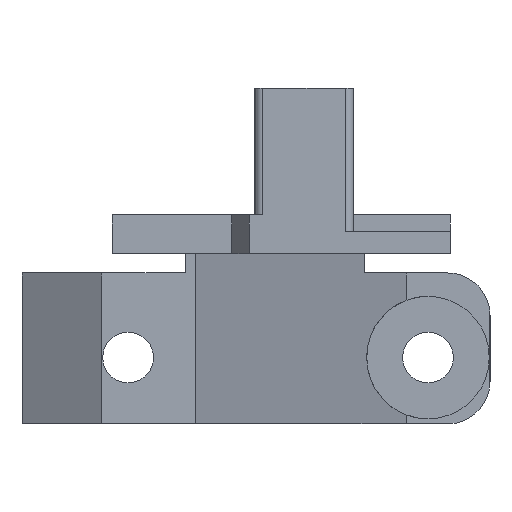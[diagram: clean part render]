
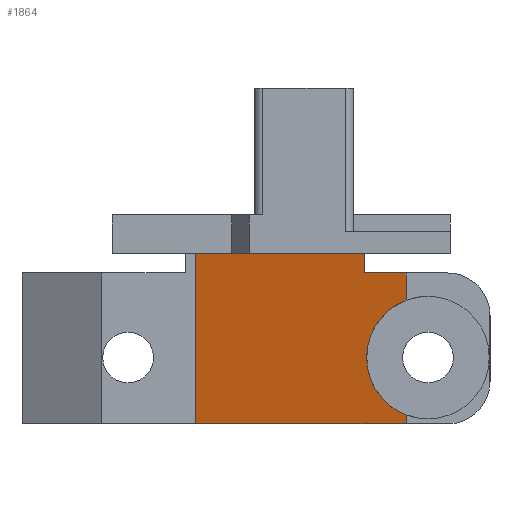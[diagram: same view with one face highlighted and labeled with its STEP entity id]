
A CAD part, left-side view. The second image highlights one B-rep face of the part: STEP entity #1864.
In plain terms, the highlighted planar face has unit normal (-0.962, 0.274, 0).
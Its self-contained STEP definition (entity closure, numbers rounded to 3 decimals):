
#69 = CARTESIAN_POINT ( 'NONE',  ( 165.53, 108.716, 2.45 ) ) ;
#82 = EDGE_CURVE ( 'NONE', #3471, #328, #2757, .T. ) ;
#96 = CARTESIAN_POINT ( 'NONE',  ( 158.45, 83.838, 17.069 ) ) ;
#123 = VECTOR ( 'NONE', #705, 1000. ) ;
#277 = DIRECTION ( 'NONE',  ( 0.962, -0.274, 0. ) ) ;
#287 = VERTEX_POINT ( 'NONE', #4333 ) ;
#328 = VERTEX_POINT ( 'NONE', #548 ) ;
#338 = ORIENTED_EDGE ( 'NONE', *, *, #643, .T. ) ;
#356 = VECTOR ( 'NONE', #2748, 1000. ) ;
#454 = FACE_OUTER_BOUND ( 'NONE', #4378, .T. ) ;
#548 = CARTESIAN_POINT ( 'NONE',  ( 165.53, 108.716, 2.45 ) ) ;
#565 = LINE ( 'NONE', #4104, #4158 ) ;
#643 = EDGE_CURVE ( 'NONE', #328, #3358, #2957, .T. ) ;
#651 = CARTESIAN_POINT ( 'NONE',  ( 158.45, 83.838, 17.069 ) ) ;
#661 = VERTEX_POINT ( 'NONE', #2505 ) ;
#702 = LINE ( 'NONE', #1976, #1289 ) ;
#705 = DIRECTION ( 'NONE',  ( 0., 0., -1. ) ) ;
#806 = CARTESIAN_POINT ( 'NONE',  ( 159.842, 88.73, 20.315 ) ) ;
#941 = ORIENTED_EDGE ( 'NONE', *, *, #1838, .F. ) ;
#945 = CARTESIAN_POINT ( 'NONE',  ( 165.53, 108.716, 22.6 ) ) ;
#1011 = PLANE ( 'NONE',  #1574 ) ;
#1138 = DIRECTION ( 'NONE',  ( -0.274, -0.962, 0. ) ) ;
#1186 = VECTOR ( 'NONE', #2354, 1000. ) ;
#1289 = VECTOR ( 'NONE', #1615, 1000. ) ;
#1346 = CARTESIAN_POINT ( 'NONE',  ( 165.53, 108.716, 22.6 ) ) ;
#1442 = CARTESIAN_POINT ( 'NONE',  ( 165.53, 108.716, 22.6 ) ) ;
#1574 = AXIS2_PLACEMENT_3D ( 'NONE', #1346, #277, #3081 ) ;
#1590 = EDGE_CURVE ( 'NONE', #661, #3104, #4218, .T. ) ;
#1615 = DIRECTION ( 'NONE',  ( 0., 0., -1. ) ) ;
#1838 = EDGE_CURVE ( 'NONE', #3471, #661, #565, .T. ) ;
#1864 = ADVANCED_FACE ( 'NONE', ( #454 ), #1011, .F. ) ;
#1936 = CARTESIAN_POINT ( 'NONE',  ( 158.45, 83.838, 3.531 ) ) ;
#1976 = CARTESIAN_POINT ( 'NONE',  ( 158.45, 83.838, 20.315 ) ) ;
#2034 = VECTOR ( 'NONE', #1138, 1000. ) ;
#2281 = ORIENTED_EDGE ( 'NONE', *, *, #2761, .T. ) ;
#2319 = DIRECTION ( 'NONE',  ( -0.274, -0.962, 0. ) ) ;
#2354 = DIRECTION ( 'NONE',  ( -0.274, -0.962, 0. ) ) ;
#2505 = CARTESIAN_POINT ( 'NONE',  ( 159.842, 88.73, 22.6 ) ) ;
#2529 = CARTESIAN_POINT ( 'NONE',  ( 160.545, 91.2, 6.357 ) ) ;
#2538 = LINE ( 'NONE', #3592, #1186 ) ;
#2711 = VECTOR ( 'NONE', #2925, 1000. ) ;
#2717 = ORIENTED_EDGE ( 'NONE', *, *, #1590, .F. ) ;
#2748 = DIRECTION ( 'NONE',  ( 0., 0., -1. ) ) ;
#2757 = LINE ( 'NONE', #1442, #123 ) ;
#2761 = EDGE_CURVE ( 'NONE', #4057, #3463, #4210, .T. ) ;
#2866 = CARTESIAN_POINT ( 'NONE',  ( 160.545, 91.2, 14.243 ) ) ;
#2913 = EDGE_CURVE ( 'NONE', #287, #3463, #702, .T. ) ;
#2925 = DIRECTION ( 'NONE',  ( 0., 0., -1. ) ) ;
#2957 = LINE ( 'NONE', #69, #2034 ) ;
#3017 = EDGE_CURVE ( 'NONE', #3104, #287, #2538, .T. ) ;
#3081 = DIRECTION ( 'NONE',  ( 0.274, 0.962, 0. ) ) ;
#3104 = VERTEX_POINT ( 'NONE', #806 ) ;
#3107 = LINE ( 'NONE', #3808, #356 ) ;
#3184 = CARTESIAN_POINT ( 'NONE',  ( 159.842, 88.73, 22.6 ) ) ;
#3306 = ORIENTED_EDGE ( 'NONE', *, *, #3017, .F. ) ;
#3358 = VERTEX_POINT ( 'NONE', #3419 ) ;
#3419 = CARTESIAN_POINT ( 'NONE',  ( 158.45, 83.838, 2.45 ) ) ;
#3463 = VERTEX_POINT ( 'NONE', #651 ) ;
#3471 = VERTEX_POINT ( 'NONE', #945 ) ;
#3592 = CARTESIAN_POINT ( 'NONE',  ( 158.374, 83.573, 20.315 ) ) ;
#3776 = ORIENTED_EDGE ( 'NONE', *, *, #4257, .F. ) ;
#3808 = CARTESIAN_POINT ( 'NONE',  ( 158.45, 83.838, 20.315 ) ) ;
#4057 = VERTEX_POINT ( 'NONE', #1936 ) ;
#4104 = CARTESIAN_POINT ( 'NONE',  ( 165.53, 108.716, 22.6 ) ) ;
#4158 = VECTOR ( 'NONE', #2319, 1000. ) ;
#4210 =( BOUNDED_CURVE ( )  B_SPLINE_CURVE ( 3, ( #4239, #2529, #2866, #96 ),
 .UNSPECIFIED., .F., .F. ) 
 B_SPLINE_CURVE_WITH_KNOTS ( ( 4, 4 ),
 ( 1.937, 4.346 ),
 .UNSPECIFIED. ) 
 CURVE ( )  GEOMETRIC_REPRESENTATION_ITEM ( )  RATIONAL_B_SPLINE_CURVE ( ( 1., 0.572, 0.572, 1. ) ) 
 REPRESENTATION_ITEM ( '' )  );
#4218 = LINE ( 'NONE', #3184, #2711 ) ;
#4239 = CARTESIAN_POINT ( 'NONE',  ( 158.45, 83.838, 3.531 ) ) ;
#4257 = EDGE_CURVE ( 'NONE', #4057, #3358, #3107, .T. ) ;
#4312 = ORIENTED_EDGE ( 'NONE', *, *, #82, .T. ) ;
#4333 = CARTESIAN_POINT ( 'NONE',  ( 158.45, 83.838, 20.315 ) ) ;
#4372 = ORIENTED_EDGE ( 'NONE', *, *, #2913, .F. ) ;
#4378 = EDGE_LOOP ( 'NONE', ( #3776, #2281, #4372, #3306, #2717, #941, #4312, #338 ) ) ;
